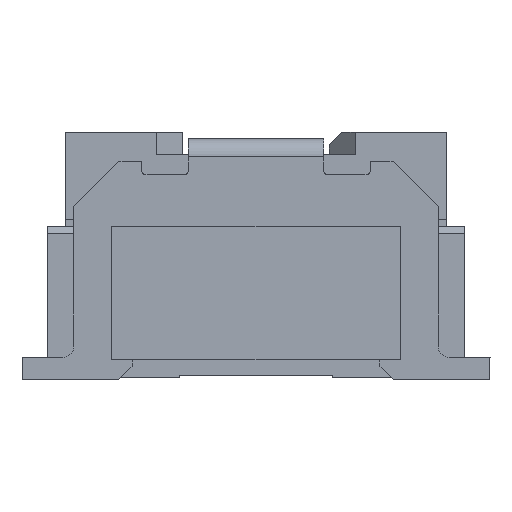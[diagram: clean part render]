
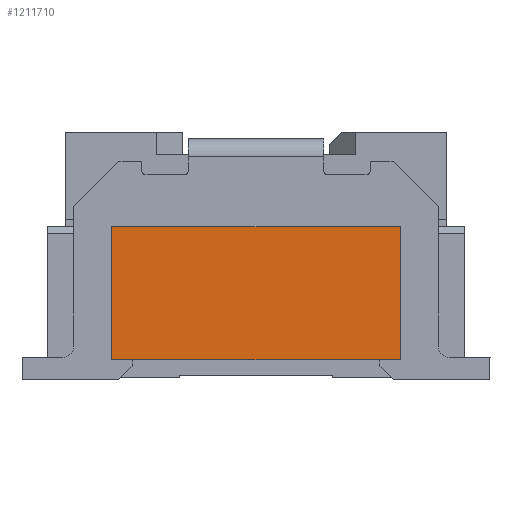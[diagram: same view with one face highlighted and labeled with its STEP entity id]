
A CAD part, left-side view. The second image highlights one B-rep face of the part: STEP entity #1211710.
In plain terms, the highlighted planar face has unit normal (-1, 0, 0).
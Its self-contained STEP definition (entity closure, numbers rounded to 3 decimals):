
#1196500=CARTESIAN_POINT('',(-26.893,-0.02,
-3.22));
#1196510=VERTEX_POINT('',#1196500);
#1196540=CARTESIAN_POINT('',(-26.893,-0.02,
-5.031));
#1196550=DIRECTION('',(0.,0.,-1.));
#1196560=VECTOR('',#1196550,1.);
#1196570=LINE('',#1196540,#1196560);
#1196580=CARTESIAN_POINT('',(-26.893,-0.02,
3.18));
#1196590=VERTEX_POINT('',#1196580);
#1196600=EDGE_CURVE('',#1196590,#1196510,#1196570,.T.);
#1210890=CARTESIAN_POINT('',(-26.893,2.93,
-3.22));
#1210900=VERTEX_POINT('',#1210890);
#1210930=CARTESIAN_POINT('',(-26.893,-0.507,
-3.22));
#1210940=DIRECTION('',(0.,-1.,0.))
;
#1210950=VECTOR('',#1210940,1.);
#1210960=LINE('',#1210930,#1210950);
#1210970=EDGE_CURVE('',#1210900,#1196510,#1210960,.T.);
#1211210=CARTESIAN_POINT('',(-26.893,-0.507,
3.18));
#1211220=DIRECTION('',(0.,1.,0.));
#1211230=VECTOR('',#1211220,1.);
#1211240=LINE('',#1211210,#1211230);
#1211250=CARTESIAN_POINT('',(-26.893,2.93,
3.18));
#1211260=VERTEX_POINT('',#1211250);
#1211270=EDGE_CURVE('',#1196590,#1211260,#1211240,.T.);
#1211550=CARTESIAN_POINT('',(-26.893,2.93,
4.88));
#1211560=DIRECTION('',(-1.,0.,0.));
#1211570=DIRECTION('',(0.,1.,0.));
#1211580=AXIS2_PLACEMENT_3D('',#1211550,#1211560,#1211570);
#1211590=PLANE('',#1211580);
#1211600=ORIENTED_EDGE('',*,*,#1196600,.F.);
#1211610=ORIENTED_EDGE('',*,*,#1210970,.T.);
#1211620=CARTESIAN_POINT('',(-26.893,2.93,
-5.031));
#1211630=DIRECTION('',(0.,0.,-1.));
#1211640=VECTOR('',#1211630,1.);
#1211650=LINE('',#1211620,#1211640);
#1211660=EDGE_CURVE('',#1211260,#1210900,#1211650,.T.);
#1211670=ORIENTED_EDGE('',*,*,#1211660,.T.);
#1211680=ORIENTED_EDGE('',*,*,#1211270,.T.);
#1211690=EDGE_LOOP('',(#1211680,#1211670,#1211610,#1211600));
#1211700=FACE_OUTER_BOUND('',#1211690,.T.);
#1211710=ADVANCED_FACE('',(#1211700),#1211590,.T.);
